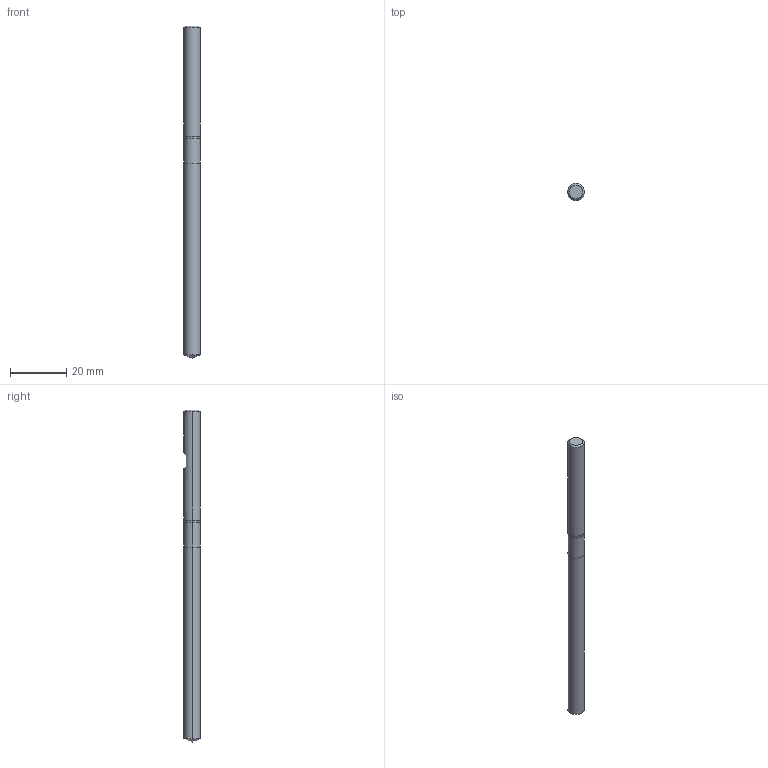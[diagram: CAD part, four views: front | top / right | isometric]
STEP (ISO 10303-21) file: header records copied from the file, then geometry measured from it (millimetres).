
FILE_DESCRIPTION (( 'STEP AP214' ), '1' );
FILE_NAME ('710.058.10_3D-model.step', '2022-02-22T17:27:41', ( '' ), ( '' ), 'SwSTEP 2.0', 'SolidWorks 2020', '' );
FILE_SCHEMA (( 'AUTOMOTIVE_DESIGN' ));
Length unit declared in the file: millimetre
Products named in the file (3): 710.058.10_3D-model; CUT-3D^Baugr103; NOCUT-3D^Baugr103
Assembly tree (2 placements, depth 2):
  710.058.10_3D-model
    CUT-3D^Baugr103
    NOCUT-3D^Baugr103
Bounding box: 6 x 6 x 118 mm (x, y, z)
Volume: 3153.3 mm3; surface area: 2255.5 mm2
Topology: 2 solids, 2 shells, 18 faces, 34 edges, 19 vertices
Faces by surface type: cylinder 6, plane 6, cone 4, torus 2
Entity records: 558 total; most frequent: DIRECTION 98, CARTESIAN_POINT 83, ORIENTED_EDGE 64, AXIS2_PLACEMENT_3D 42, EDGE_CURVE 32, VERTEX_POINT 19, EDGE_LOOP 19, ADVANCED_FACE 18
